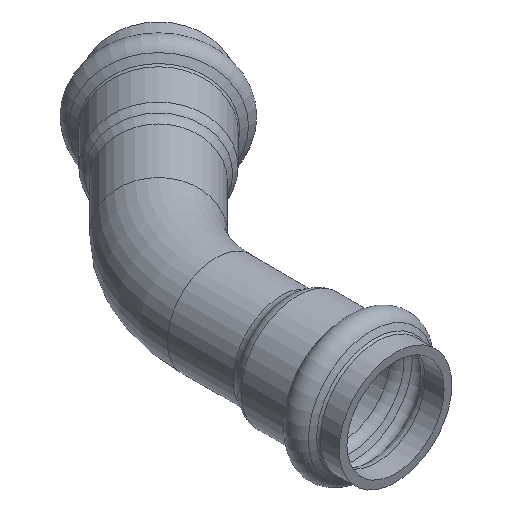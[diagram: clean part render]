
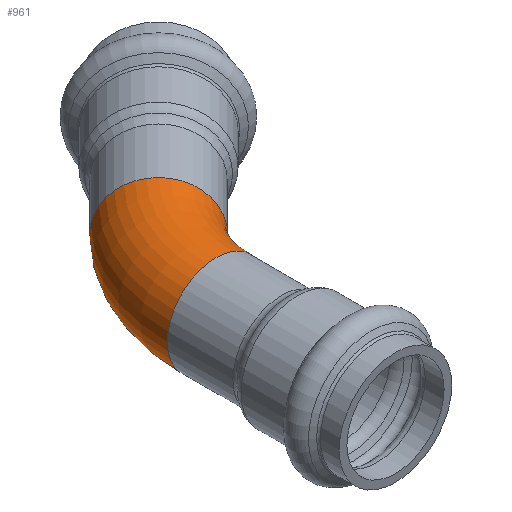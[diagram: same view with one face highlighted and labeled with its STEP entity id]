
A CAD part, isometric view. The second image highlights one B-rep face of the part: STEP entity #961.
In plain terms, the highlighted toroidal (fillet/blend) face has major radius 38.1 mm and minor radius 13.335 mm.
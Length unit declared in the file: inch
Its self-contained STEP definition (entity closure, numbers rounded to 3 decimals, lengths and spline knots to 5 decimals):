
#125=FACE_OUTER_BOUND('',#167,.T.);
#167=EDGE_LOOP('',(#651,#652,#653,#654,#655,#656));
#232=CIRCLE('',#1054,0.525);
#233=CIRCLE('',#1055,0.525);
#234=CIRCLE('',#1057,0.975);
#235=CIRCLE('',#1058,0.525);
#236=CIRCLE('',#1059,0.525);
#355=VERTEX_POINT('',#1658);
#356=VERTEX_POINT('',#1660);
#357=VERTEX_POINT('',#1664);
#358=VERTEX_POINT('',#1666);
#475=EDGE_CURVE('',#356,#355,#232,.T.);
#476=EDGE_CURVE('',#355,#356,#233,.T.);
#477=EDGE_CURVE('',#356,#357,#234,.T.);
#478=EDGE_CURVE('',#358,#357,#235,.T.);
#479=EDGE_CURVE('',#357,#358,#236,.T.);
#651=ORIENTED_EDGE('',*,*,#476,.T.);
#652=ORIENTED_EDGE('',*,*,#477,.T.);
#653=ORIENTED_EDGE('',*,*,#478,.F.);
#654=ORIENTED_EDGE('',*,*,#479,.F.);
#655=ORIENTED_EDGE('',*,*,#477,.F.);
#656=ORIENTED_EDGE('',*,*,#475,.T.);
#894=TOROIDAL_SURFACE('',#1056,1.5,0.525);
#961=ADVANCED_FACE('',(#125),#894,.T.);
#1054=AXIS2_PLACEMENT_3D('',#1661,#1285,#1286);
#1055=AXIS2_PLACEMENT_3D('',#1662,#1287,#1288);
#1056=AXIS2_PLACEMENT_3D('',#1663,#1289,#1290);
#1057=AXIS2_PLACEMENT_3D('',#1665,#1291,#1292);
#1058=AXIS2_PLACEMENT_3D('',#1667,#1293,#1294);
#1059=AXIS2_PLACEMENT_3D('',#1668,#1295,#1296);
#1285=DIRECTION('center_axis',(0.,1.,0.));
#1286=DIRECTION('ref_axis',(1.,0.,0.));
#1287=DIRECTION('center_axis',(0.,1.,0.));
#1288=DIRECTION('ref_axis',(1.,0.,0.));
#1289=DIRECTION('center_axis',(0.,0.,1.));
#1290=DIRECTION('ref_axis',(1.,0.,0.));
#1291=DIRECTION('center_axis',(0.,0.,-1.));
#1292=DIRECTION('ref_axis',(1.,0.,0.));
#1293=DIRECTION('center_axis',(0.707,0.707,0.));
#1294=DIRECTION('ref_axis',(0.707,-0.707,0.));
#1295=DIRECTION('center_axis',(0.707,0.707,0.));
#1296=DIRECTION('ref_axis',(0.707,-0.707,0.));
#1658=CARTESIAN_POINT('',(-0.525,-0.62132,0.));
#1660=CARTESIAN_POINT('',(0.525,-0.62132,0.));
#1661=CARTESIAN_POINT('Origin',(0.,-0.62132,
0.));
#1662=CARTESIAN_POINT('Origin',(0.,-0.62132,
0.));
#1663=CARTESIAN_POINT('Origin',(1.5,-0.62132,0.));
#1664=CARTESIAN_POINT('',(0.81057,0.06811,0.));
#1665=CARTESIAN_POINT('Origin',(1.5,-0.62132,0.));
#1666=CARTESIAN_POINT('',(0.06811,0.81057,0.));
#1667=CARTESIAN_POINT('Origin',(0.43934,0.43934,0.));
#1668=CARTESIAN_POINT('Origin',(0.43934,0.43934,0.));
